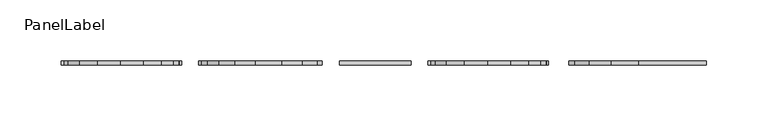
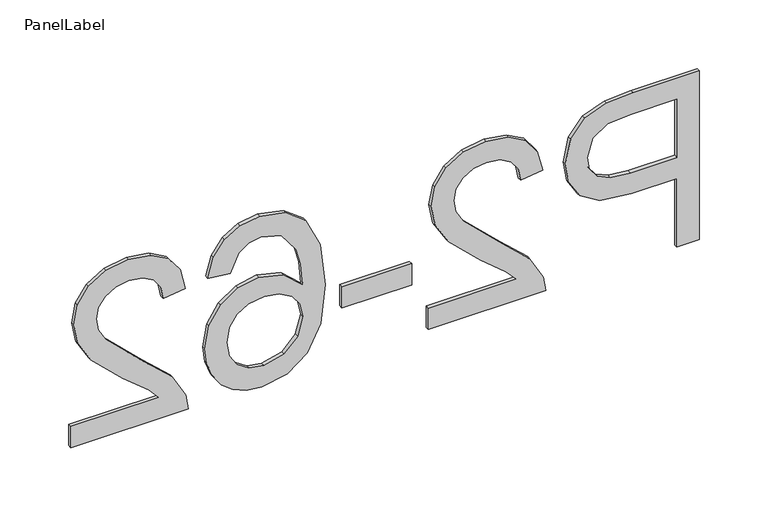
"""IFC4 building model written with IfcOpenShell, lengths in millimetres: fastener geometry, PanelLabel : Miranda."""

import ifcopenshell
import ifcopenshell.guid

model = None  # the IFC model being written
_history = None  # IfcOwnerHistory: only IFC2X3 demands one
_inside = {}  # id of a spatial element -> (the spatial element, [elements in it])
_under = {}  # id of a project, library or spatial element -> (it, [spatial elements below it])
_declared = {}  # id of a project -> (the project, [libraries it declares])
_typed = {}  # id of a type object -> (the type object, [elements of that type])
_made_of = {}  # id of a material, layer set ... -> (it, [elements and type objects made of it])


def new_model(schema):
    """Start an empty IFC model of exactly this schema.

    Asked for "IFC4X3", IfcOpenShell would pick the latest addendum, in which some entities
    have other attributes; the version numbers below select the first issue.
    IFC2X3 requires an IfcOwnerHistory on every rooted entity: one is made here for all.
    """
    global model, _history
    if schema == "IFC4X3":
        model = ifcopenshell.file(schema_version=(4, 3, 0, 0))
    else:
        model = ifcopenshell.file(schema=schema)
    _inside.clear()
    _under.clear()
    _declared.clear()
    _typed.clear()
    _made_of.clear()
    _history = None
    if model.schema == "IFC2X3":
        org = make("IfcOrganization", Name="unknown")
        user = make(
            "IfcPersonAndOrganization",
            ThePerson=make("IfcPerson", FamilyName="unknown"),
            TheOrganization=org,
        )
        app = make(
            "IfcApplication",
            ApplicationDeveloper=org,
            Version="unknown",
            ApplicationFullName="unknown",
            ApplicationIdentifier="unknown",
        )
        _history = make(
            "IfcOwnerHistory",
            OwningUser=user,
            OwningApplication=app,
            ChangeAction="ADDED",
            CreationDate=0,
        )
    return model


def make(cls, **values):
    """One entity of the class cls with the attributes given. An attribute that is None is left unset."""
    return model.create_entity(
        cls, **{name: value for name, value in values.items() if value is not None}
    )


def rooted(cls, **values):
    """An entity with a GlobalId (a new one), such as an element, a storey or a relation."""
    return make(cls, GlobalId=ifcopenshell.guid.new(), OwnerHistory=_history, **values)


def si_unit(unit_type, name, prefix=None):
    """IfcSIUnit, for example si_unit("LENGTHUNIT", "METRE", prefix="MILLI")."""
    return make("IfcSIUnit", UnitType=unit_type, Prefix=prefix, Name=name)


def assignment(units):
    """IfcUnitAssignment: the units of a project."""
    return None if units is None else make("IfcUnitAssignment", Units=units)


def point(xyz):
    """IfcCartesianPoint."""
    return None if xyz is None else make("IfcCartesianPoint", Coordinates=xyz)


def direction(xyz):
    """IfcDirection."""
    return None if xyz is None else make("IfcDirection", DirectionRatios=xyz)


def frame(location, z_axis=None, x_axis=None):
    """IfcAxis2Placement3D, a coordinate frame: its origin and axes. An axis left out is left unset."""
    return make(
        "IfcAxis2Placement3D",
        Location=point(location),
        Axis=direction(z_axis),
        RefDirection=direction(x_axis),
    )


def origin():
    """The frame at (0, 0, 0) with its axes left unset."""
    return frame((0.0, 0.0, 0.0))


def place(relative_to, where):
    """IfcLocalPlacement: puts the frame where relative to a parent placement (None: the world)."""
    return make(
        "IfcLocalPlacement", PlacementRelTo=relative_to, RelativePlacement=where
    )


def context(
    kind, dimensions, precision=None, world=None, true_north=None, identifier=None
):
    """IfcGeometricRepresentationContext, for example the 3D "Model" context."""
    return make(
        "IfcGeometricRepresentationContext",
        ContextIdentifier=identifier,
        ContextType=kind,
        CoordinateSpaceDimension=dimensions,
        Precision=precision,
        WorldCoordinateSystem=world,
        TrueNorth=true_north,
    )


def project(units=None, contexts=None):
    """IfcProject with its units and contexts."""
    return rooted(
        "IfcProject",
        Name="project",
        RepresentationContexts=contexts,
        UnitsInContext=assignment(units),
    )


def spatial(cls, under=None, at=None, **own):
    """A site, building, storey or space (cls), placed at a placement, below another one or the project."""
    s = rooted(cls, ObjectPlacement=at, **own)
    if under is not None:
        _under.setdefault(under.id(), (under, []))[1].append(s)
    return s


def polyline(points):
    """IfcPolyline through the points."""
    return make("IfcPolyline", Points=[point(p) for p in points])


def outline(outer, holes=None, kind="AREA"):
    """IfcArbitraryClosedProfileDef: a profile drawn as a closed curve; with holes, ...WithVoids."""
    if holes is None:
        return make("IfcArbitraryClosedProfileDef", ProfileType=kind, OuterCurve=outer)
    return make(
        "IfcArbitraryProfileDefWithVoids",
        ProfileType=kind,
        OuterCurve=outer,
        InnerCurves=holes,
    )


def extrude(swept, where, along, depth):
    """IfcExtrudedAreaSolid: the profile swept, set in the frame where, extruded along a direction by depth."""
    return make(
        "IfcExtrudedAreaSolid",
        SweptArea=swept,
        Position=where,
        ExtrudedDirection=direction(along),
        Depth=depth,
    )


def shape(context_of_items, identifier, shape_type, items):
    """IfcShapeRepresentation: the items that make up one representation, for example the "Body"."""
    return make(
        "IfcShapeRepresentation",
        ContextOfItems=context_of_items,
        RepresentationIdentifier=identifier,
        RepresentationType=shape_type,
        Items=items,
    )


def source(mapping_origin, context_of_items, identifier, shape_type, items):
    """IfcRepresentationMap: a shape defined once, which mapped items show again and again."""
    return make(
        "IfcRepresentationMap",
        MappingOrigin=mapping_origin,
        MappedRepresentation=shape(context_of_items, identifier, shape_type, items),
    )


def transform(
    local_origin,
    x_axis=None,
    y_axis=None,
    z_axis=None,
    scale=None,
    scale2=None,
    scale3=None,
    uniform=True,
):
    """IfcCartesianTransformationOperator3D, or its non-uniform kind. x_axis, y_axis, z_axis: its Axis1, 2, 3."""
    if uniform:
        return make(
            "IfcCartesianTransformationOperator3D",
            Axis1=direction(x_axis),
            Axis2=direction(y_axis),
            LocalOrigin=point(local_origin),
            Scale=scale,
            Axis3=direction(z_axis),
        )
    return make(
        "IfcCartesianTransformationOperator3DnonUniform",
        Axis1=direction(x_axis),
        Axis2=direction(y_axis),
        LocalOrigin=point(local_origin),
        Scale=scale,
        Axis3=direction(z_axis),
        Scale2=scale2,
        Scale3=scale3,
    )


def mapped(mapping_source, mapping_target):
    """IfcMappedItem: shows the shape of a source again, moved by a transform."""
    return make(
        "IfcMappedItem", MappingSource=mapping_source, MappingTarget=mapping_target
    )


def made_of(thing, what):
    """Note that an element or type object is made of a material, layer set ...; save() writes the relation."""
    if what is not None:
        _made_of.setdefault(what.id(), (what, []))[1].append(thing)
    return thing


def element(
    cls,
    number,
    at=None,
    inside=None,
    cuts=None,
    type_object=None,
    material=None,
    context=None,
    identifier="Body",
    shape_type=None,
    held_by="IfcProductDefinitionShape",
    body=None,
    shapes=None,
    **own,
):
    """One element of the class cls, such as IfcWall. Its Tag is "e" and its number.

    at: its placement. inside: the storey or other place that contains it. cuts: it is an
    opening in that element (IfcRelVoidsElement). A single representation is given by context,
    identifier, shape_type and body (its items); several are given by shapes. held_by: the class
    of the entity that holds the representations. save() writes the other relations.
    """
    e = rooted(cls, Tag="e%d" % number, ObjectPlacement=at, **own)
    if body is not None:
        shapes = [shape(context, identifier, shape_type, body)]
    if shapes is not None:
        e.Representation = make(held_by, Representations=shapes)
    if inside is not None:
        _inside.setdefault(inside.id(), (inside, []))[1].append(e)
    if cuts is not None:
        rooted(
            "IfcRelVoidsElement", RelatingBuildingElement=cuts, RelatedOpeningElement=e
        )
    if type_object is not None:
        _typed.setdefault(type_object.id(), (type_object, []))[1].append(e)
    return made_of(e, material)


def aggregate(whole, parts):
    """IfcRelAggregates: a whole, such as a stair, and the parts it consists of."""
    return rooted("IfcRelAggregates", RelatingObject=whole, RelatedObjects=parts)


def save(model, path):
    """Write the relations noted so far, then the file.

    IfcRelAggregates (storeys below a building ...), IfcRelContainedInSpatialStructure (elements
    in a storey), IfcRelDefinesByType, IfcRelAssociatesMaterial and IfcRelDeclares: one each for
    every whole, place, type object, material and project.
    """
    for whole, parts in _under.values():
        aggregate(whole, parts)
    for where, things in _inside.values():
        rooted(
            "IfcRelContainedInSpatialStructure",
            RelatedElements=things,
            RelatingStructure=where,
        )
    for kind, things in _typed.values():
        rooted("IfcRelDefinesByType", RelatedObjects=things, RelatingType=kind)
    for what, things in _made_of.values():
        rooted("IfcRelAssociatesMaterial", RelatedObjects=things, RelatingMaterial=what)
    for by, libraries in _declared.values():
        rooted("IfcRelDeclares", RelatingContext=by, RelatedDefinitions=libraries)
    model.write(path)


def panellabel_e07ebce4(model_context):
    return source(origin(), model_context, "Body", "SweptSolid", [
        extrude(outline(polyline([(1310.9113766, 260.2523077), (1460.9667612, 260.2523077), (1460.9667612, 204.6409615), (1459.5380112, 182.2205769), (1452.5224823, 163.9948558), (1438.0151747, 152.1801923), (1417.554742, 147.7107692), (1399.8693814, 150.7285457), (1385.1331073, 159.781875), (1375.1868093, 176.7116466), (1371.8713766, 203.35875), (1371.8713766, 241.4953846), (1310.9113766, 241.4953846), (1310.9113766, 260.2523077)]), holes=[polyline([(1390.6282997, 241.4953846), (1390.6282997, 202.2597115), (1392.3501266, 185.6275962), (1397.5156073, 174.6372115), (1405.8041891, 168.5100721), (1416.8953189, 166.4676923), (1432.4283958, 171.2851442), (1440.9276266, 183.9424038), (1442.2098381, 202.6993269), (1442.2098381, 241.4953846), (1390.6282997, 241.4953846)])]), frame((0.0, 60.325, 0.0), z_axis=(0.0, 1.0, 0.0), x_axis=(0.0, 0.0, 1.0)), (0.0, 0.0, 1.0), 3.175),
        extrude(outline(polyline([(1329.6682997, 32.8246154), (1310.9113766, 32.8246154), (1310.9113766, 131.2984615), (1323.8433958, 129.2835577), (1343.7543093, 117.8901923), (1365.4969535, 94.4074038), (1396.7462804, 62.0224038), (1407.5168573, 55.9502163), (1417.9943573, 53.9261538), (1427.3865569, 55.8357332), (1435.1943093, 61.5644712), (1440.4559559, 70.3705168), (1442.2098381, 81.5120192), (1440.4971698, 93.2121995), (1435.359165, 102.3021635), (1427.1988045, 108.1682813), (1416.4190689, 110.1969231), (1418.7636843, 128.9538462), (1436.9069775, 124.4065745), (1450.1595497, 114.5747596), (1458.2649583, 99.9712861), (1460.9667612, 81.1090385), (1457.9627227, 62.1094111), (1448.9506073, 47.5334135), (1435.4873862, 38.2602764), (1419.1300304, 35.1692308), (1401.3439247, 38.5029808), (1382.9533477, 49.5849519), (1357.254165, 76.4564423), (1339.211617, 98.0342308), (1329.6682997, 106.4968269), (1329.6682997, 32.8246154)])), frame((0.0, 60.325, 0.0), z_axis=(0.0, 1.0, 0.0), x_axis=(0.0, 0.0, 1.0)), (0.0, 0.0, 1.0), 3.175),
        extrude(outline(polyline([(-39.8584615, 63.5), (18.7569231, 63.5), (18.7569231, 60.325), (-39.8584615, 60.325), (-39.8584615, 63.5)])), frame((0.0, 0.0, 1355.4590689), z_axis=(0.0, 0.0, 1.0), x_axis=(1.0, 0.0, 0.0)), (0.0, 0.0, 1.0), 18.7569231),
        extrude(outline(polyline([(1421.1082997, -152.4), (1418.7636843, -133.6430769), (1434.406665, -126.5359615), (1440.2590448, -118.0275721), (1442.2098381, -107.7424038), (1437.6671458, -90.8172115), (1420.6137323, -78.0134135), (1406.6422059, -74.1255649), (1387.1846458, -72.6830769), (1402.1498862, -89.2236058), (1407.0406073, -109.7206731), (1403.6976987, -127.0488462), (1393.6689727, -141.5927885), (1378.3465448, -151.4566587), (1359.1225304, -154.7446154), (1345.6913646, -153.1968029), (1333.2401747, -148.5533654), (1322.6802468, -141.1989663), (1314.922867, -131.5182692), (1310.1557876, -119.9508894), (1308.5667612, -106.9364423), (1312.779742, -85.6563101), (1325.4186843, -68.7082212), (1347.729165, -57.6216707), (1380.9567612, -53.9261538), (1418.3149102, -58.0292308), (1443.8583958, -70.3384615), (1456.6896698, -87.1445913), (1460.9667612, -108.9147115), (1458.3199102, -125.3728125), (1450.3793573, -138.5521154), (1437.767891, -147.7840385), (1421.1082997, -152.4)]), holes=[polyline([(1359.4156073, -72.6830769), (1343.1681554, -77.0242788), (1331.3718093, -88.5641827), (1327.3236843, -105.4710577), (1329.421016, -117.8489784), (1335.7130112, -127.5800481), (1345.6043573, -133.8857812), (1358.499742, -135.9876923), (1370.8776626, -133.9132572), (1380.3156554, -127.6899519), (1386.2916771, -117.7940264), (1388.2836843, -104.7017308), (1386.2916771, -92.3421274), (1380.3156554, -82.0065865), (1371.106629, -75.0139543), (1359.4156073, -72.6830769)])]), frame((0.0, 60.325, 0.0), z_axis=(0.0, 1.0, 0.0), x_axis=(0.0, 0.0, 1.0)), (0.0, 0.0, 1.0), 3.175),
        extrude(outline(polyline([(1329.6682997, -267.2861538), (1310.9113766, -267.2861538), (1310.9113766, -168.8123077), (1323.8433958, -170.8272115), (1343.7543093, -182.2205769), (1365.4969535, -205.7033654), (1396.7462804, -238.0883654), (1407.5168573, -244.1605529), (1417.9943573, -246.1846154), (1427.3865569, -244.2750361), (1435.1943093, -238.5462981), (1440.4559559, -229.7402524), (1442.2098381, -218.59875), (1440.4971698, -206.8985697), (1435.359165, -197.8086058), (1427.1988045, -191.942488), (1416.4190689, -189.9138462), (1418.7636843, -171.1569231), (1436.9069775, -175.7041947), (1450.1595497, -185.5360096), (1458.2649583, -200.1394832), (1460.9667612, -219.0017308), (1457.9627227, -238.0013582), (1448.9506073, -252.5773558), (1435.4873862, -261.8504928), (1419.1300304, -264.9415385), (1401.3439247, -261.6077885), (1382.9533477, -250.5258173), (1357.254165, -223.6543269), (1339.211617, -202.0765385), (1329.6682997, -193.6139423), (1329.6682997, -267.2861538)])), frame((0.0, 60.325, 0.0), z_axis=(0.0, 1.0, 0.0), x_axis=(0.0, 0.0, 1.0)), (0.0, 0.0, 1.0), 3.175),
    ])


if __name__ == "__main__":
    model = new_model("IFC4")
    model_context = context("Model", 3, world=origin())
    ifc_project = project(units=[si_unit("LENGTHUNIT", "METRE", prefix="MILLI")], contexts=[model_context])
    site = spatial("IfcSite", under=ifc_project)
    building = spatial("IfcBuilding", under=site)
    placement = place(None, origin())
    panellabel_shape = panellabel_e07ebce4(model_context)
    element("IfcFastener", 1, ObjectType="PanelLabel : Miranda", at=placement, inside=building, context=model_context, shape_type="MappedRepresentation", body=[
        mapped(panellabel_shape, transform((0.0, 0.0, 0.0), x_axis=(1.0, 0.0, 0.0), y_axis=(0.0, 1.0, 0.0), z_axis=(0.0, 0.0, 1.0))),
    ])
    save(model, "model.ifc")
